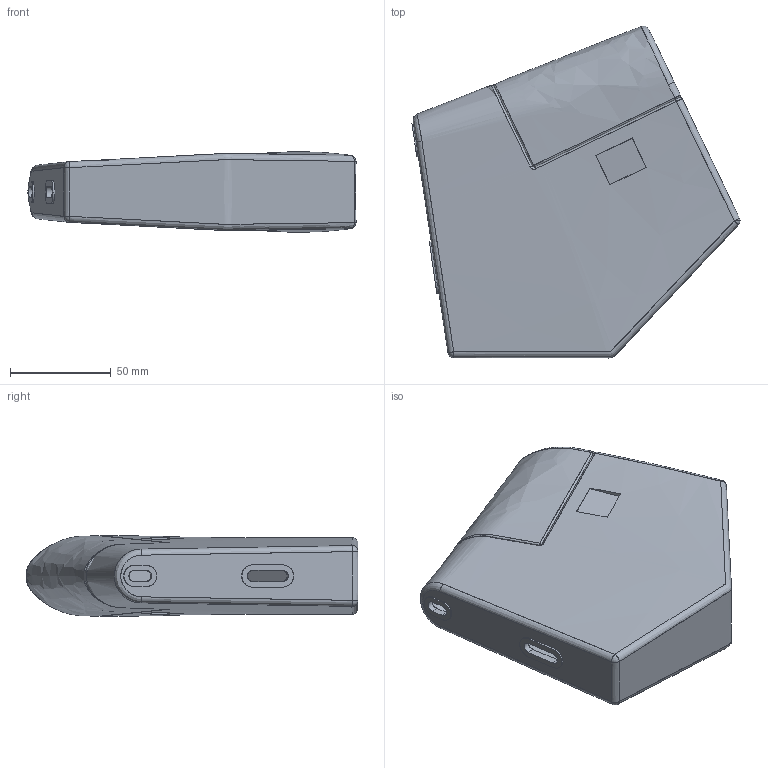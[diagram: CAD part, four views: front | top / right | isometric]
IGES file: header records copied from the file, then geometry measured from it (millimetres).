
Start section: SolidWorks IGES file using analytic representation for surfaces
Global section: file name: D:\Desktop\RD PROJECT\=2021 NEW VIPER\new TT 2.0\TOOL BOX\launch document\CEEPO TOOL BOX FOR M470)\R2\CEEPO_VIPER_M(470)_for tool box\CEEPO_VIPER_TOOL BOX_M_R2.IGS; native system: SolidWorks 2023; preprocessor: SolidWorks 2023; author: HP; date: 231115.140001; units: millimetre
Bounding box: 163.06 x 165.02 x 39.92 mm (x, y, z)
Surface area: 104043.8 mm2 (no closed solid volume)
Topology: 0 solids, 0 shells, 193 faces, 2867 edges, 2867 vertices
Faces by surface type: bspline 156, revolution 37
